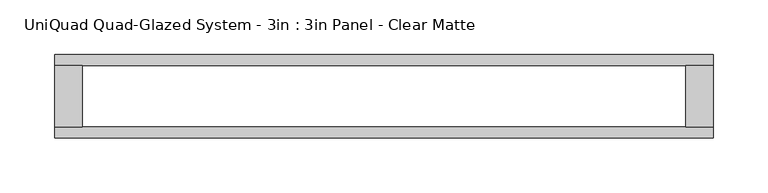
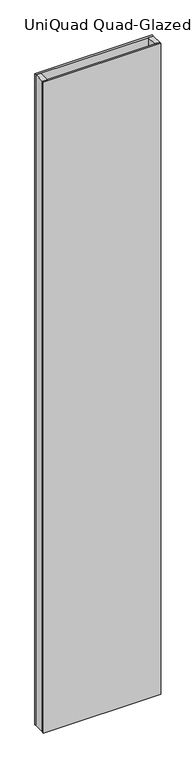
"""IFC4 building model written with IfcOpenShell, lengths in millimetres: plate geometry, UniQuad Quad-Glazed System - 3in : 3in Panel - Clear Matte."""

from ifc_helpers import new_model, si_unit, origin, origin_with_axes, place, context, project, spatial, polyline, outline, extrude, source, transform, mapped, element, save


def uniquad_quad_glazed_system_3in_3in_panel_clear_matte_5acf8fc9(model_context):
    return source(origin(), model_context, "Body", "SweptSolid", [
        extrude(outline(polyline([(300.9800781, 28.0924), (300.9800781, -28.0924), (275.5800781, -28.0924), (275.5800781, 28.0924), (300.9800781, 28.0924)])), origin_with_axes(), (0.0, 0.0, 1.0), 3530.6),
        extrude(outline(polyline([(-300.9800781, 28.0924), (-275.5800781, 28.0924), (-275.5800781, -28.0924), (-300.9800781, -28.0924), (-300.9800781, 28.0924)])), origin_with_axes(), (0.0, 0.0, 1.0), 3530.6),
        extrude(outline(polyline([(300.9800781, -28.0924), (300.9800781, -38.1), (-300.9800781, -38.1), (-300.9800781, -28.0924), (300.9800781, -28.0924)])), origin_with_axes(), (0.0, 0.0, 1.0), 3530.6),
        extrude(outline(polyline([(300.9800781, 38.1), (300.9800781, 28.0924), (-300.9800781, 28.0924), (-300.9800781, 38.1), (300.9800781, 38.1)])), origin_with_axes(), (0.0, 0.0, 1.0), 3530.6),
    ])


if __name__ == "__main__":
    model = new_model("IFC4")
    model_context = context("Model", 3, world=origin())
    ifc_project = project(units=[si_unit("LENGTHUNIT", "METRE", prefix="MILLI")], contexts=[model_context])
    site = spatial("IfcSite", under=ifc_project)
    building = spatial("IfcBuilding", under=site)
    placement = place(None, origin())
    uniquad_quad_glazed_system_3in_3in_panel_clear_matte_shape = uniquad_quad_glazed_system_3in_3in_panel_clear_matte_5acf8fc9(model_context)
    element("IfcPlate", 1, ObjectType="UniQuad Quad-Glazed System - 3in : 3in Panel - Clear Matte", at=placement, inside=building, context=model_context, shape_type="MappedRepresentation", body=[
        mapped(uniquad_quad_glazed_system_3in_3in_panel_clear_matte_shape, transform((0.0, 0.0, 0.0), x_axis=(1.0, 0.0, 0.0), y_axis=(0.0, 1.0, 0.0), z_axis=(0.0, 0.0, 1.0))),
    ])
    save(model, "model.ifc")
